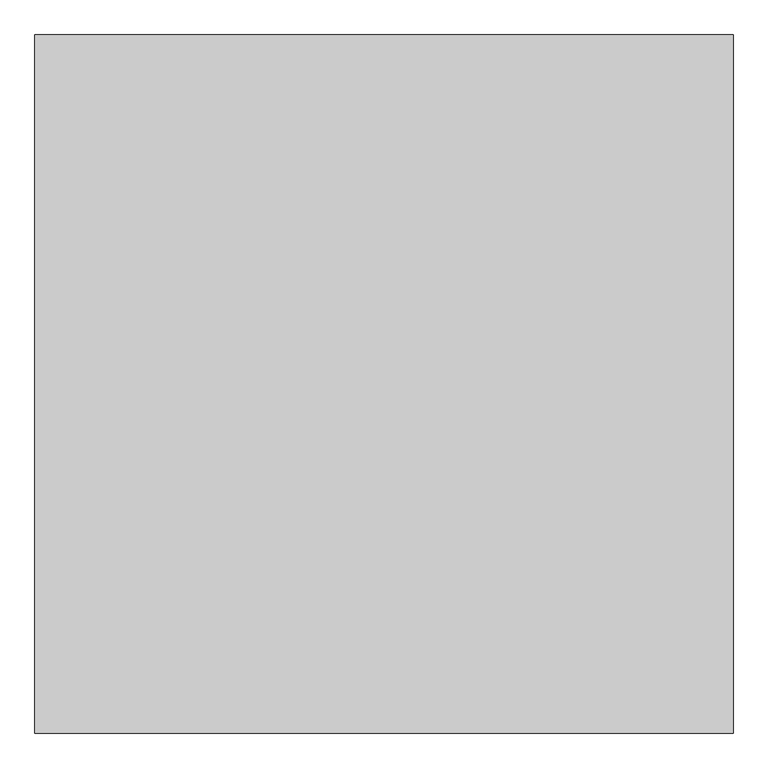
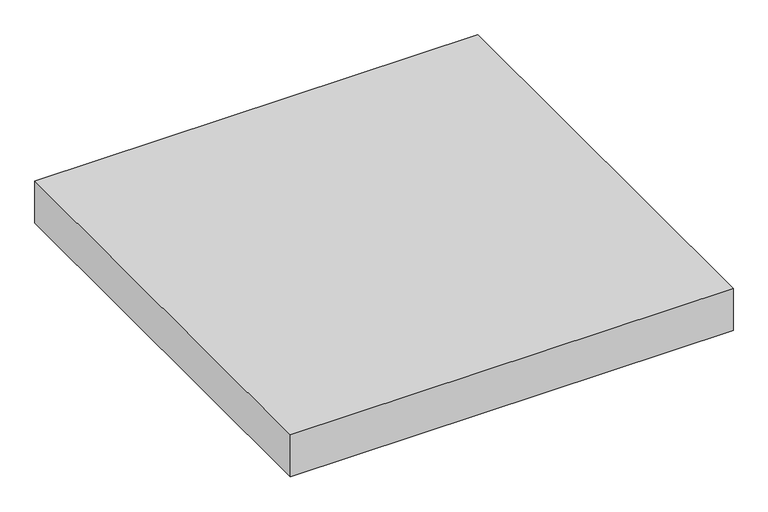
"""IFC4 building model written with IfcOpenShell, lengths in millimetres: proxy geometry, Modelos genéricos 26 : Modelos genéricos 1."""

from ifc_helpers import new_model, si_unit, origin, origin_with_axes, place, context, project, spatial, polyline, outline, extrude, source, transform, mapped, element, save


def generic_models_b7aa1bbc(model_context):
    return source(origin(), model_context, "Body", "SweptSolid", [
        extrude(outline(polyline([(6809.3973641, 1454.287186), (6809.3973641, -45.712814), (5309.3973641, -45.712814), (5309.3973641, 1454.287186), (6809.3973641, 1454.287186)])), origin_with_axes(), (0.0, 0.0, 1.0), 150.0),
    ])


if __name__ == "__main__":
    model = new_model("IFC4")
    model_context = context("Model", 3, world=origin())
    ifc_project = project(units=[si_unit("LENGTHUNIT", "METRE", prefix="MILLI")], contexts=[model_context])
    site = spatial("IfcSite", under=ifc_project)
    building = spatial("IfcBuilding", under=site)
    placement = place(None, origin())
    generic_models_shape = generic_models_b7aa1bbc(model_context)
    element("IfcBuildingElementProxy", 1, Name="Modelos genéricos 26 : Modelos genéricos 1", ObjectType="Modelos genéricos 26 : Modelos genéricos 1", at=placement, inside=building, context=model_context, shape_type="MappedRepresentation", body=[
        mapped(generic_models_shape, transform((0.0, 0.0, 0.0), x_axis=(1.0, 0.0, 0.0), y_axis=(0.0, 1.0, 0.0), z_axis=(0.0, 0.0, 1.0))),
    ])
    save(model, "model.ifc")
